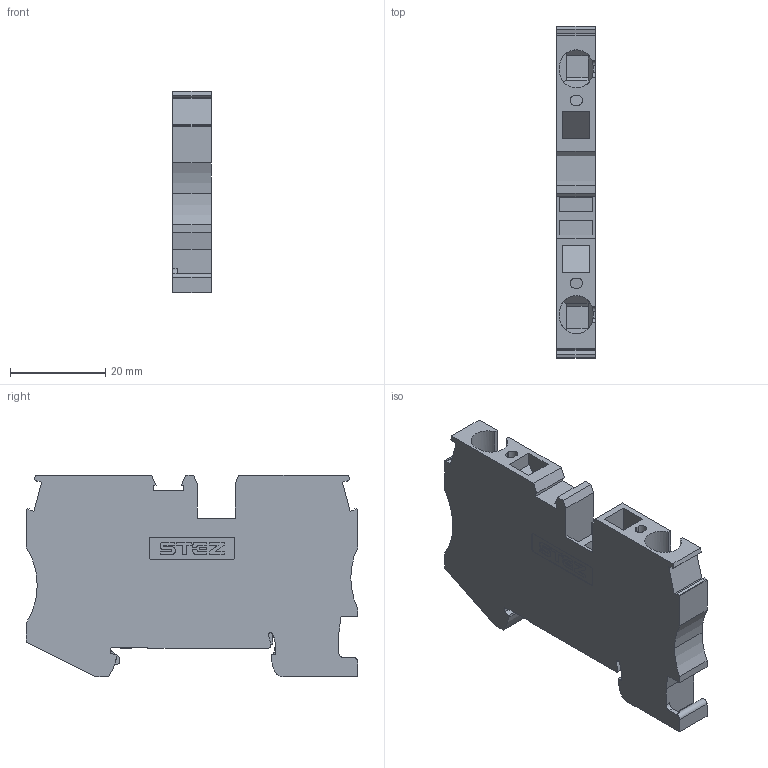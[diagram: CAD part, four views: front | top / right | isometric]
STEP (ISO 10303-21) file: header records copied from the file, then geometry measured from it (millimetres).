
FILE_DESCRIPTION(('TFLEX Exchange Step'),'2;1');
FILE_NAME('10000032_КНЗ_6-2-PE.stp', '2023-10-24T14:31:42+03:00',('apanin'),('Unknown organisation'),'TFLEX Exchange 2023.0','T-FLEX CAD','Unknown authorisation');
FILE_SCHEMA( ('AUTOMOTIVE_DESIGN { 1 0 10303 214 1 1 1 1 }') );
Length unit declared in the file: millimetre
Products named in the file (1): Тело_1:1
Bounding box: 8.15 x 69.5 x 42.19 mm (x, y, z)
Volume: 17738.1 mm3; surface area: 9028.3 mm2
Topology: 1 solids, 1 shells, 402 faces, 1239 edges, 850 vertices
Faces by surface type: plane 198, cylinder 195, bspline 9
Entity records: 14830 total; most frequent: CARTESIAN_POINT 3436, ORIENTED_EDGE 2478, DIRECTION 2304, EDGE_CURVE 1239, VERTEX_POINT 850, AXIS2_PLACEMENT_3D 779, VECTOR 746, LINE 746
